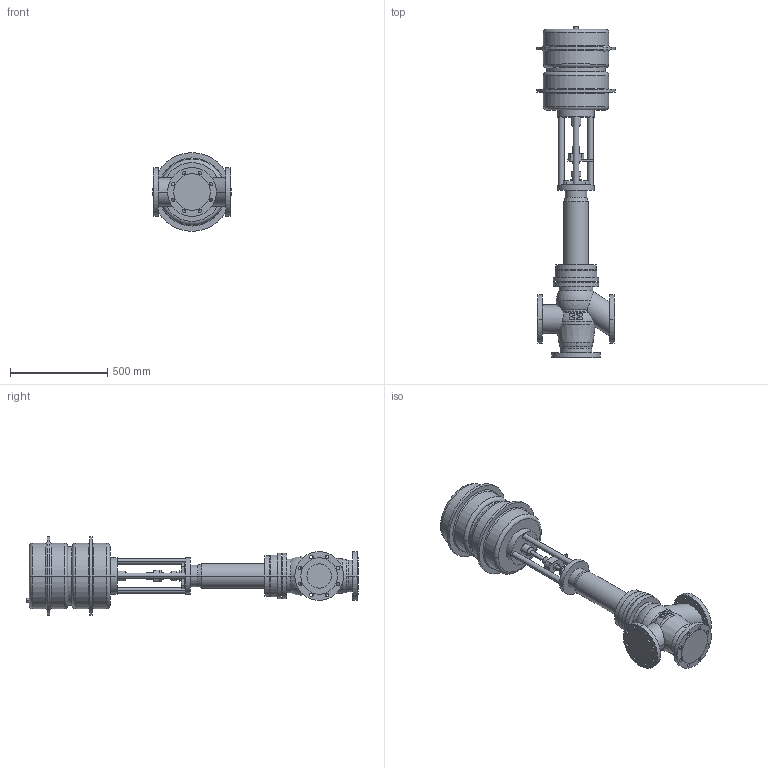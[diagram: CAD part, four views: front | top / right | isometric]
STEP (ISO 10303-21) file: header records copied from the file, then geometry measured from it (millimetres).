
FILE_DESCRIPTION(('OneSpaceDesigner STEP Export'),'2;1');
FILE_NAME('c000002426.stp','2007-01-26T13:31:59',(''),(''),'OneSpace Designer STEP processor for AP214 (Solid Model)','OneSpace Designer 14.00B 27-May-2006 (C) CoCreate Software GmbH','');
FILE_SCHEMA(('AUTOMOTIVE_DESIGN { 1 0 10303 214 1 1 1 1 }'));
Length unit declared in the file: millimetre
Products named in the file (2): 1; 2
Bounding box: 405 x 1708.5 x 405 mm (x, y, z)
Volume: 66170406.4 mm3; surface area: 2007761.2 mm2
Topology: 2 solids, 2 shells, 284 faces, 688 edges, 444 vertices
Faces by surface type: cylinder 150, plane 94, torus 26, sphere 8, cone 6
Entity records: 7508 total; most frequent: CARTESIAN_POINT 1465, ORIENTED_EDGE 1360, DIRECTION 1092, EDGE_CURVE 680, VERTEX_POINT 444, AXIS2_PLACEMENT_3D 408, EDGE_LOOP 376, FACE_OUTER_BOUND 284
